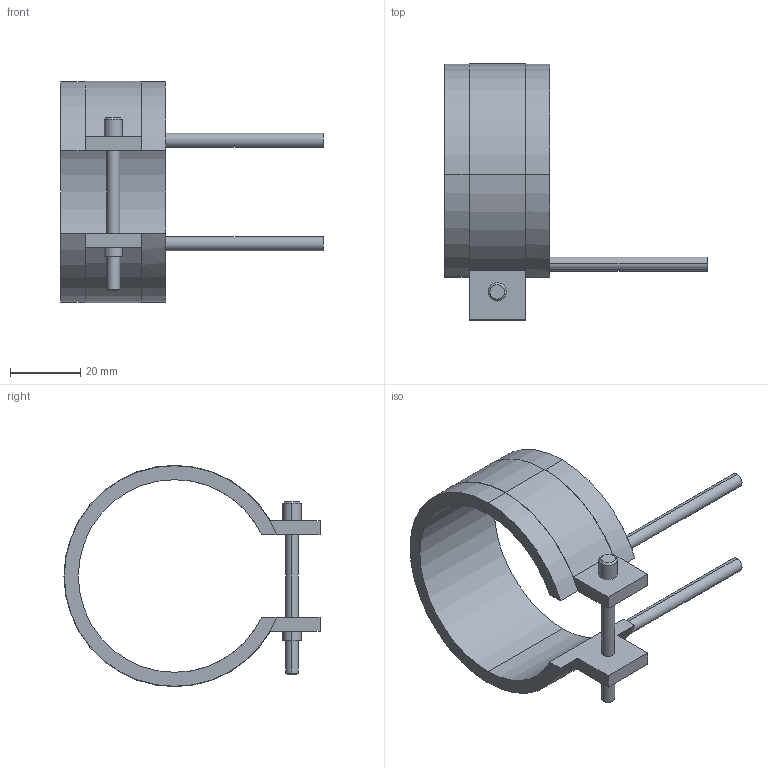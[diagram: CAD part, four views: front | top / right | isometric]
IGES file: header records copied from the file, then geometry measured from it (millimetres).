
Start section: START RECORD GO HERE.
Global section: file name: 14055030.igs; native system: DASSAULT SYSTEMES CATIA V5 R20 - www.3ds.com; preprocessor: CATIA Version 5 Release 20 ; author: Utente; organization: NB04-ASUS; date: 20210401.113606; units: millimetre
Bounding box: 75 x 73.1 x 63.2 mm (x, y, z)
Surface area: 13924.3 mm2 (no closed solid volume)
Topology: 0 solids, 0 shells, 45 faces, 232 edges, 232 vertices
Faces by surface type: revolution 28, plane 17
